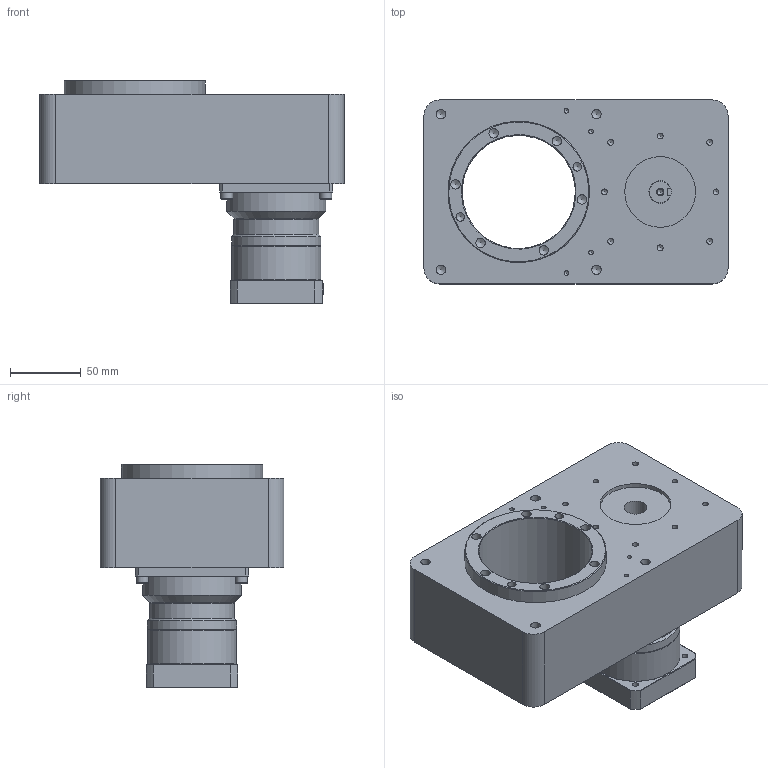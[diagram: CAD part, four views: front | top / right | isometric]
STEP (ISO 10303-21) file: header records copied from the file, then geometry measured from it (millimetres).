
FILE_DESCRIPTION((''),'2;1');
FILE_NAME('C:\Users\disegnatore3\Desktop\3D\TAVOLE ROTANTI\ROTAC PLUS\ROTAC PLUS 130\FORMATO CAD\ROTAC PLUS 130.stp','2017-01-18T14:10:11',('disegnatore3'),(''),'Autodesk Inventor 2012','Autodesk Inventor 2012','');
FILE_SCHEMA(('AUTOMOTIVE_DESIGN { 1 0 10303 214 1 1 1 1 }'));
Length unit declared in the file: millimetre
Products named in the file (7): ROTAC PLUS 130; C130P; PC130P; ISO 4762 - M5 x 12ISO; DIN 7984 - M5 x 12; PI130; RID70R130P
Assembly tree (15 placements, depth 2):
  ROTAC PLUS 130
    C130P
    PC130P
    ISO 4762 - M5 x 12ISO  x4
    DIN 7984 - M5 x 12  x4
    PI130  x4
    RID70R130P
Bounding box: 215 x 130 x 158 mm (x, y, z)
Volume: 1797922.8 mm3; surface area: 247038.1 mm2
Topology: 15 solids, 15 shells, 564 faces, 1356 edges, 846 vertices
Faces by surface type: plane 265, cylinder 164, cone 105, torus 30
Full cylindrical faces by diameter (mm): 3.242 x8, 4 x1, 4.134 x25, 4.5 x1, 5 x10, 5.2 x32, 6 x2, 6.647 x14, 7 x5, 7.5 x4, 8 x1, 8.5 x8, 10 x16, 14 x1, 16 x2, 18 x1, 40 x1, 50 x2, 52 x5, 60 x1, 63 x2, 70 x1, 80 x1, 100 x2
Entity records: 10382 total; most frequent: CARTESIAN_POINT 2017, DIRECTION 1732, ORIENTED_EDGE 1400, AXIS2_PLACEMENT_3D 714, EDGE_CURVE 700, EDGE_LOOP 632, VERTEX_POINT 516, FACE_OUTER_BOUND 393
